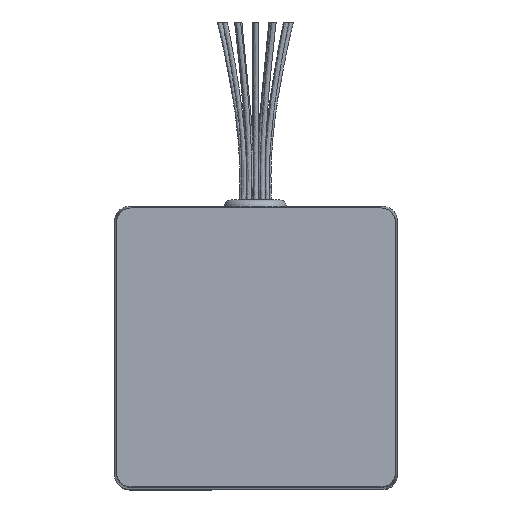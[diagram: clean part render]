
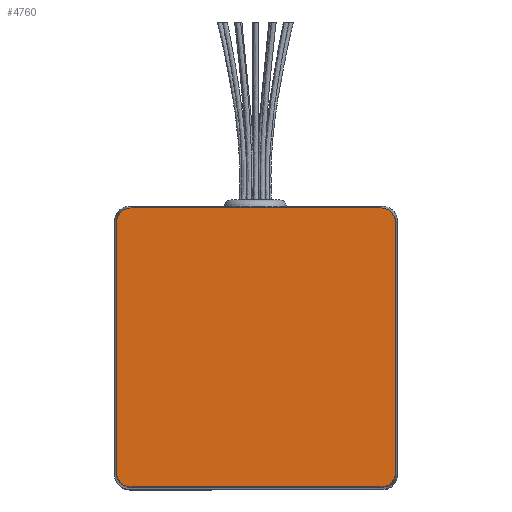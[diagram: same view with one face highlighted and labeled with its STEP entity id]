
A CAD part, top view. The second image highlights one B-rep face of the part: STEP entity #4760.
In plain terms, the highlighted planar face has unit normal (0, 0, 1).
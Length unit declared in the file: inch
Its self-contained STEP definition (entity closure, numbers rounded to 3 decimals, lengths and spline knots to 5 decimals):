
#4133=CARTESIAN_POINT('',(-1.0065,1.125,5.646));
#4134=VERTEX_POINT('',#4133);
#4141=CARTESIAN_POINT('',(1.0065,1.125,5.646));
#4142=VERTEX_POINT('',#4141);
#4143=CARTESIAN_POINT('',(-1.0065,1.125,5.646));
#4144=DIRECTION('',(1.0,0.0,0.0));
#4145=VECTOR('',#4144,2.013);
#4146=LINE('',#4143,#4145);
#4147=EDGE_CURVE('',#4134,#4142,#4146,.T.);
#4485=CARTESIAN_POINT('',(1.125,-1.0065,5.646));
#4486=VERTEX_POINT('',#4485);
#4487=CARTESIAN_POINT('',(1.0065,-1.125,5.646));
#4488=VERTEX_POINT('',#4487);
#4489=CARTESIAN_POINT('',(1.0065,-1.0065,5.646));
#4490=DIRECTION('',(0.0,0.0,-1.));
#4491=DIRECTION('',(0.707,-0.707,0.0));
#4492=AXIS2_PLACEMENT_3D('',#4489,#4490,#4491);
#4493=CIRCLE('',#4492,0.1185);
#4494=EDGE_CURVE('',#4486,#4488,#4493,.T.);
#4585=CARTESIAN_POINT('',(-1.0065,-1.125,5.646));
#4586=VERTEX_POINT('',#4585);
#4587=CARTESIAN_POINT('',(1.0065,-1.125,5.646));
#4588=DIRECTION('',(-1.0,0.0,0.0));
#4589=VECTOR('',#4588,2.013);
#4590=LINE('',#4587,#4589);
#4591=EDGE_CURVE('',#4488,#4586,#4590,.T.);
#4624=CARTESIAN_POINT('',(-1.125,-1.0065,5.646));
#4625=VERTEX_POINT('',#4624);
#4626=CARTESIAN_POINT('',(-1.0065,-1.0065,5.646));
#4627=DIRECTION('',(0.0,0.0,-1.));
#4628=DIRECTION('',(-0.707,-0.707,0.0));
#4629=AXIS2_PLACEMENT_3D('',#4626,#4627,#4628);
#4630=CIRCLE('',#4629,0.1185);
#4631=EDGE_CURVE('',#4586,#4625,#4630,.T.);
#4707=CARTESIAN_POINT('',(-1.125,1.0065,5.646));
#4708=VERTEX_POINT('',#4707);
#4709=CARTESIAN_POINT('',(-1.0065,1.0065,5.646));
#4710=DIRECTION('',(0.0,0.0,-1.));
#4711=DIRECTION('',(-0.707,0.707,0.0));
#4712=AXIS2_PLACEMENT_3D('',#4709,#4710,#4711);
#4713=CIRCLE('',#4712,0.1185);
#4714=EDGE_CURVE('',#4708,#4134,#4713,.T.);
#4727=CARTESIAN_POINT('',(0.0,0.,5.646));
#4728=DIRECTION('',(0.0,0.0,1.0));
#4729=DIRECTION('',(1.0,0.0,0.0));
#4730=AXIS2_PLACEMENT_3D('',#4727,#4728,#4729);
#4731=PLANE('',#4730);
#4732=ORIENTED_EDGE('',*,*,#4494,.F.);
#4733=CARTESIAN_POINT('',(1.125,1.0065,5.646));
#4734=VERTEX_POINT('',#4733);
#4735=CARTESIAN_POINT('',(1.125,1.0065,5.646));
#4736=DIRECTION('',(0.0,-1.0,0.0));
#4737=VECTOR('',#4736,2.013);
#4738=LINE('',#4735,#4737);
#4739=EDGE_CURVE('',#4734,#4486,#4738,.T.);
#4740=ORIENTED_EDGE('',*,*,#4739,.F.);
#4741=CARTESIAN_POINT('',(1.0065,1.0065,5.646));
#4742=DIRECTION('',(0.0,0.0,-1.));
#4743=DIRECTION('',(0.707,0.707,0.0));
#4744=AXIS2_PLACEMENT_3D('',#4741,#4742,#4743);
#4745=CIRCLE('',#4744,0.1185);
#4746=EDGE_CURVE('',#4142,#4734,#4745,.T.);
#4747=ORIENTED_EDGE('',*,*,#4746,.F.);
#4748=ORIENTED_EDGE('',*,*,#4147,.F.);
#4749=ORIENTED_EDGE('',*,*,#4714,.F.);
#4750=CARTESIAN_POINT('',(-1.125,-1.0065,5.646));
#4751=DIRECTION('',(0.0,1.0,0.0));
#4752=VECTOR('',#4751,2.013);
#4753=LINE('',#4750,#4752);
#4754=EDGE_CURVE('',#4625,#4708,#4753,.T.);
#4755=ORIENTED_EDGE('',*,*,#4754,.F.);
#4756=ORIENTED_EDGE('',*,*,#4631,.F.);
#4757=ORIENTED_EDGE('',*,*,#4591,.F.);
#4758=EDGE_LOOP('',(#4732,#4740,#4747,#4748,#4749,#4755,#4756,#4757));
#4759=FACE_OUTER_BOUND('',#4758,.T.);
#4760=ADVANCED_FACE('',(#4759),#4731,.T.);
